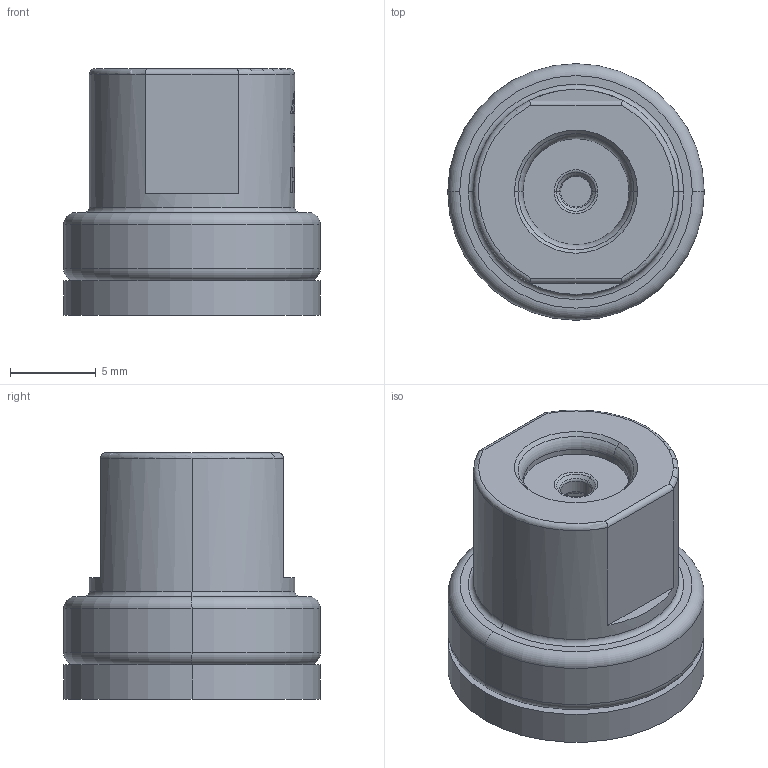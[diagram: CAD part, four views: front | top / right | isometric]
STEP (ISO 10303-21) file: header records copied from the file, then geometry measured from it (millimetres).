
FILE_DESCRIPTION (( 'STEP AP214' ), '1' );
FILE_NAME ('HCI40.STEP', '2024-05-27T09:04:54', ( '' ), ( '' ), 'SwSTEP 2.0', 'SolidWorks 2020', '' );
FILE_SCHEMA (( 'AUTOMOTIVE_DESIGN' ));
Length unit declared in the file: millimetre
Products named in the file (4): IVHCA SW_D‚faut; VHCI40_DＧaut; SBHCI40_DＧaut; HCI40
Assembly tree (3 placements, depth 2):
  HCI40
    IVHCA SW_D‚faut
    SBHCI40_DＧaut
    VHCI40_DＧaut
Bounding box: 15 x 15 x 14.4 mm (x, y, z)
Volume: 1474.4 mm3; surface area: 2283.4 mm2
Topology: 4 solids, 4 shells, 291 faces, 743 edges, 476 vertices
Faces by surface type: plane 107, bspline 78, cylinder 57, torus 37, cone 12
Entity records: 12332 total; most frequent: CARTESIAN_POINT 5416, ORIENTED_EDGE 1486, DIRECTION 1228, EDGE_CURVE 743, VERTEX_POINT 476, AXIS2_PLACEMENT_3D 460, EDGE_LOOP 317, LINE 308
